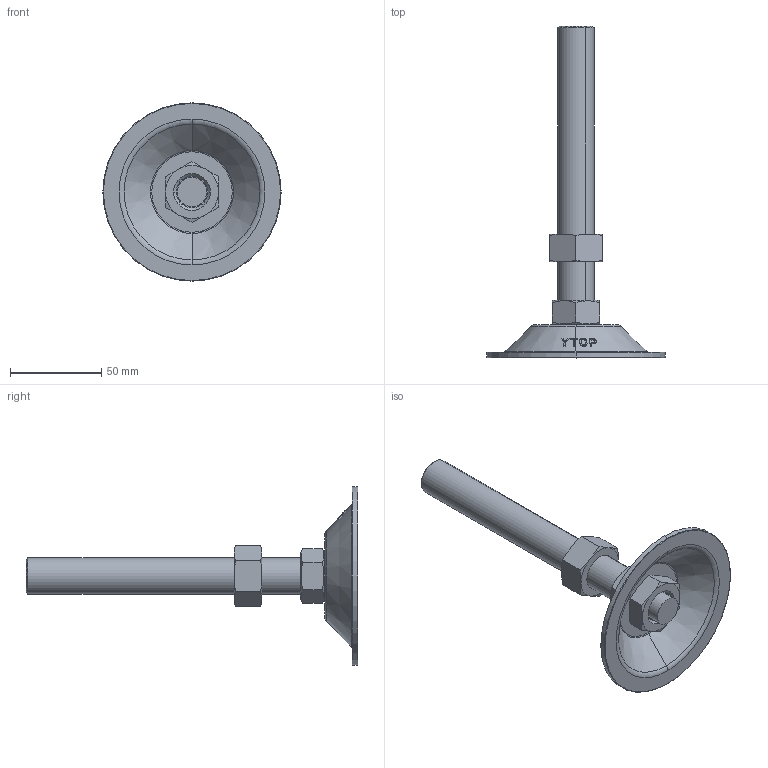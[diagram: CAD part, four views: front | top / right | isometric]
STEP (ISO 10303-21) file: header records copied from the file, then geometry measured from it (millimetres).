
FILE_DESCRIPTION (( 'STEP AP203' ), '1' );
FILE_NAME ('N-100-20150-S.STEP', '2020-09-10T08:10:12', ( '' ), ( '' ), 'SwSTEP 2.0', 'SolidWorks 2016', '' );
FILE_SCHEMA (( 'CONFIG_CONTROL_DESIGN' ));
Length unit declared in the file: millimetre
Products named in the file (5): N-100-20150-S; 脚垫调节六角螺母M20; H-100-3P H倰100菁釱; 不锈钢双头螺杆M20系列_M20X150; 脚垫锁紧六角薄螺母M20
Assembly tree (4 placements, depth 2):
  N-100-20150-S
    H-100-3P H倰100菁釱
    不锈钢双头螺杆M20系列_M20X150
    脚垫锁紧六角薄螺母M20
    脚垫调节六角螺母M20
Bounding box: 97.5 x 181.5 x 97.5 mm (x, y, z)
Volume: 95757.5 mm3; surface area: 36057.6 mm2
Topology: 4 solids, 4 shells, 144 faces, 335 edges, 208 vertices
Faces by surface type: cone 52, bspline 38, plane 30, torus 12, cylinder 12
Entity records: 8480 total; most frequent: CARTESIAN_POINT 5072, ORIENTED_EDGE 670, DIRECTION 475, EDGE_CURVE 335, AXIS2_PLACEMENT_3D 211, VERTEX_POINT 208, B_SPLINE_CURVE_WITH_KNOTS 184, EDGE_LOOP 159
